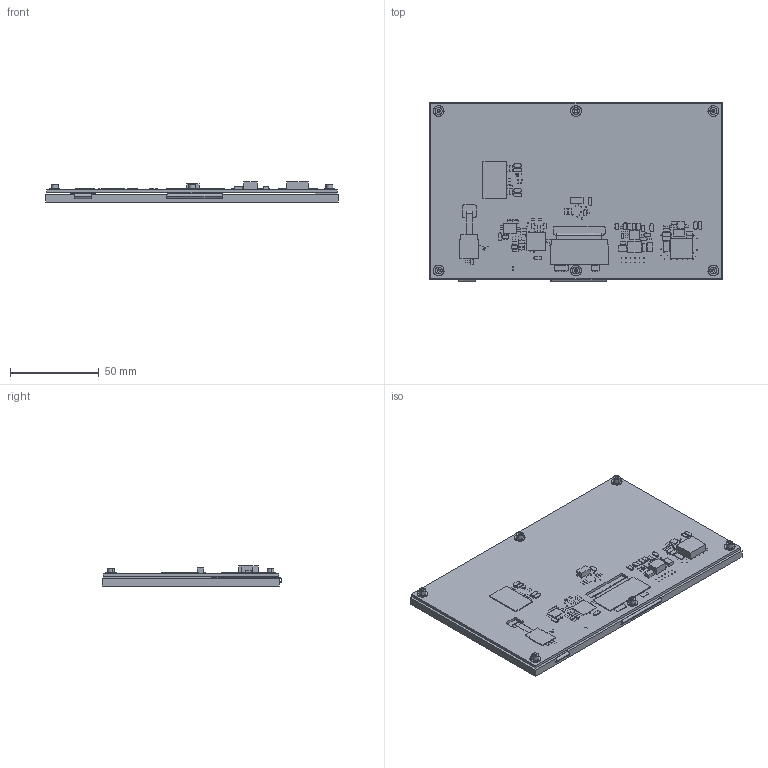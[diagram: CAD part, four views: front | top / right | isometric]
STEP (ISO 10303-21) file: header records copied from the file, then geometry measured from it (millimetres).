
FILE_DESCRIPTION (( 'STEP AP214' ), '1' );
FILE_NAME ('CFAF1024600B0-070SC-A1.STEP', '2021-11-23T23:14:22', ( '' ), ( '' ), 'SwSTEP 2.0', 'SolidWorks 2021', '' );
FILE_SCHEMA (( 'AUTOMOTIVE_DESIGN' ));
Length unit declared in the file: millimetre
Products named in the file (1): CFAF1024600B0-070SC-A1
Bounding box: 164.9 x 101.39 x 11.32 mm (x, y, z)
Surface area: 73282.5 mm2 (no closed solid volume)
Topology: 0 solids, 2 shells, 2398 faces, 5762 edges, 3788 vertices
Faces by surface type: cylinder 1398, plane 983, cone 12, bspline 5
Entity records: 104567 total; most frequent: CARTESIAN_POINT 40608, ORIENTED_EDGE 11497, B_SPLINE_CURVE_WITH_KNOTS 5750, EDGE_CURVE 5750, DIRECTION 4788, VERTEX_POINT 3788, EDGE_LOOP 3223, ADVANCED_FACE 2398
